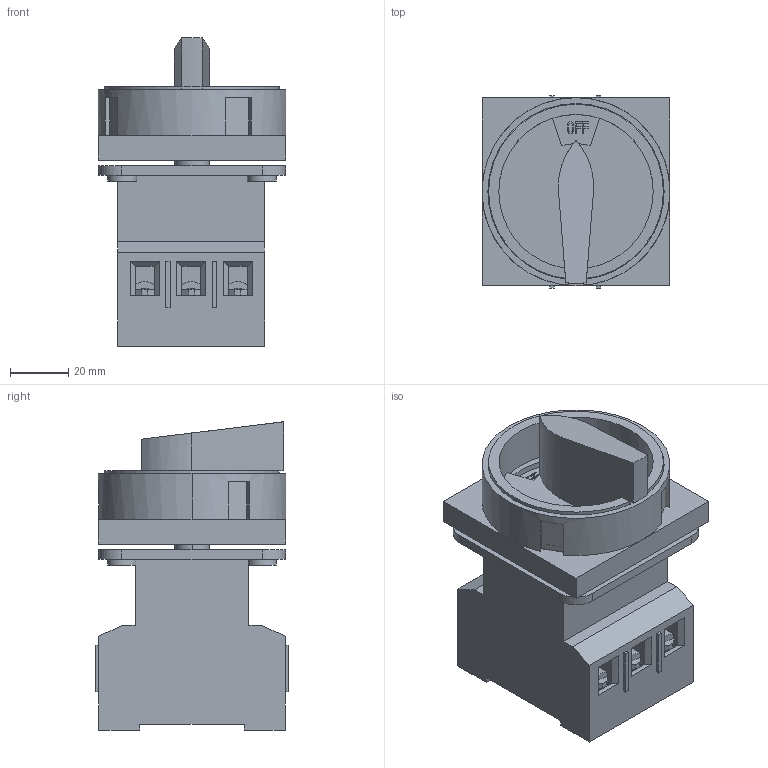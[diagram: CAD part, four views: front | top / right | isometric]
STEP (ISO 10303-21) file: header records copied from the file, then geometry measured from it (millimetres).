
FILE_DESCRIPTION((''),'2;1');
FILE_NAME('NH40-63-3-3_ASM','2021-06-16T',('wangpeng'),(''),'PRO/ENGINEER BY PARAMETRIC TECHNOLOGY CORPORATION, 2009460','PRO/ENGINEER BY PARAMETRIC TECHNOLOGY CORPORATION, 2009460','');
FILE_SCHEMA(('AUTOMOTIVE_DESIGN { 1 0 10303 214 1 1 1 1 }'));
Length unit declared in the file: millimetre
Products named in the file (5): ZTL63; CT63; DP63; LDM4; NH40-63-3-3_ASM
Assembly tree (16 placements, depth 2):
  NH40-63-3-3_ASM
    ZTL63
    CT63  x3
    DP63  x6
    LDM4  x6
Bounding box: 64.5 x 66 x 105.9 mm (x, y, z)
Volume: 231454 mm3; surface area: 68607.9 mm2
Topology: 16 solids, 16 shells, 740 faces, 2094 edges, 1392 vertices
Faces by surface type: plane 485, cylinder 179, bspline 48, cone 16, sphere 12
Entity records: 28138 total; most frequent: CARTESIAN_POINT 13964, ORIENTED_EDGE 3144, DIRECTION 2492, EDGE_CURVE 1572, VERTEX_POINT 1054, VECTOR 1026, LINE 1026, AXIS2_PLACEMENT_3D 733
